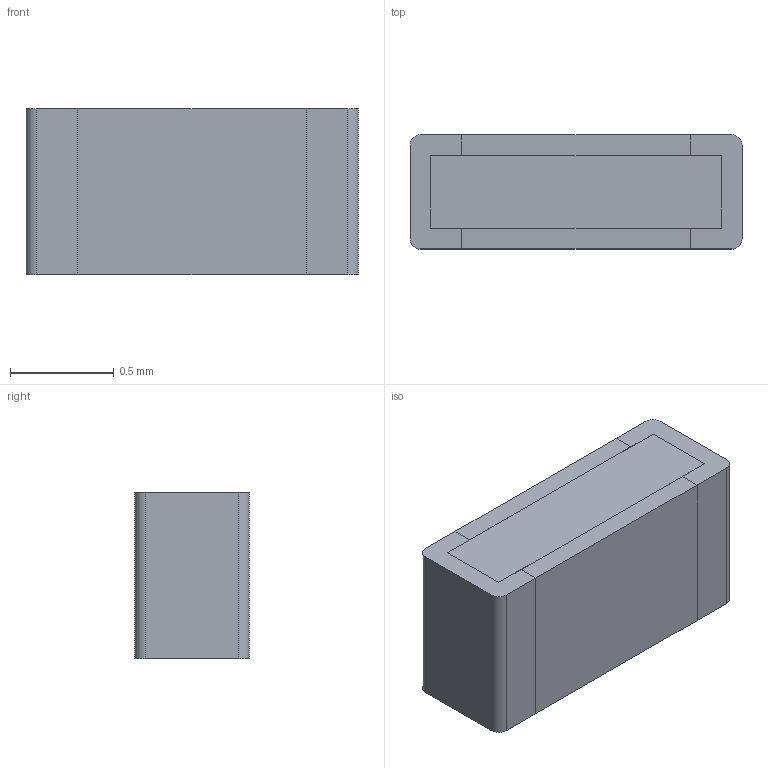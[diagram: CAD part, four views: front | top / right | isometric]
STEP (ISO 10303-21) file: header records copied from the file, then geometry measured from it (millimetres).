
FILE_DESCRIPTION (( 'STEP AP214' ), '1' );
FILE_NAME ( 'RESC1608X55.STEP', '2013-08-13T09:44:36', ( '' ), ( '' ), 'FPX Expert 2013', 'PCB Libraries', '' );
FILE_SCHEMA (( 'AUTOMOTIVE_DESIGN' ));
Length unit declared in the file: millimetre
Products named in the file (1): RESC1608X55
Bounding box: 1.6 x 0.55 x 0.8 mm (x, y, z)
Volume: 0.7 mm3; surface area: 11.4 mm2
Topology: 5 solids, 5 shells, 42 faces, 96 edges, 64 vertices
Faces by surface type: plane 38, cylinder 4
Entity records: 1351 total; most frequent: CARTESIAN_POINT 203, ORIENTED_EDGE 192, DIRECTION 190, EDGE_CURVE 96, VECTOR 88, LINE 88, VERTEX_POINT 64, AXIS2_PLACEMENT_3D 51
